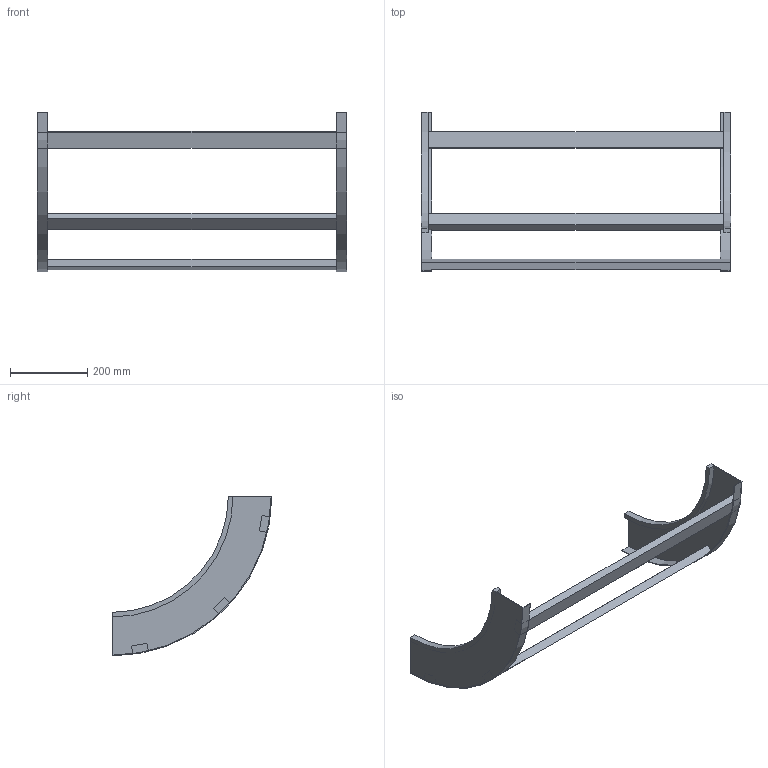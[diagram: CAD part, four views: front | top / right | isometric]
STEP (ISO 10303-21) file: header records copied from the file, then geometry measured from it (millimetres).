
FILE_DESCRIPTION (( 'STEP AP214' ), '1' );
FILE_NAME ('B2X30B3J800XX.step', '2025-03-20T10:23:02', ( '' ), ( '' ), 'SwSTEP 2.0', 'SolidWorks 2023', '' );
FILE_SCHEMA (( 'AUTOMOTIVE_DESIGN' ));
Length unit declared in the file: millimetre
Products named in the file (3): B2X30B3J800XX; TRAVERSINO_800; B2_LONGH.SALITA_90°_H112.5_R300
Assembly tree (5 placements, depth 2):
  B2X30B3J800XX
    B2_LONGH.SALITA_90°_H112.5_R300  x2
    TRAVERSINO_800  x3
Bounding box: 800 x 412.5 x 412.5 mm (x, y, z)
Volume: 2435311.4 mm3; surface area: 647371.8 mm2
Topology: 5 solids, 5 shells, 38 faces, 84 edges, 56 vertices
Faces by surface type: plane 30, cylinder 8
Entity records: 560 total; most frequent: DIRECTION 92, CARTESIAN_POINT 84, ORIENTED_EDGE 72, EDGE_CURVE 36, AXIS2_PLACEMENT_3D 32, LINE 28, VECTOR 28, VERTEX_POINT 24
